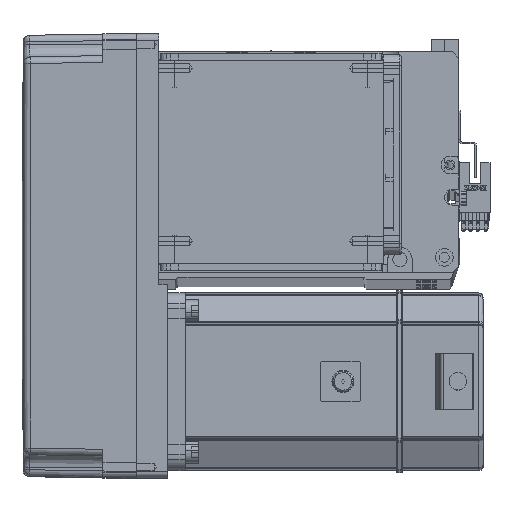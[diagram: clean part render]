
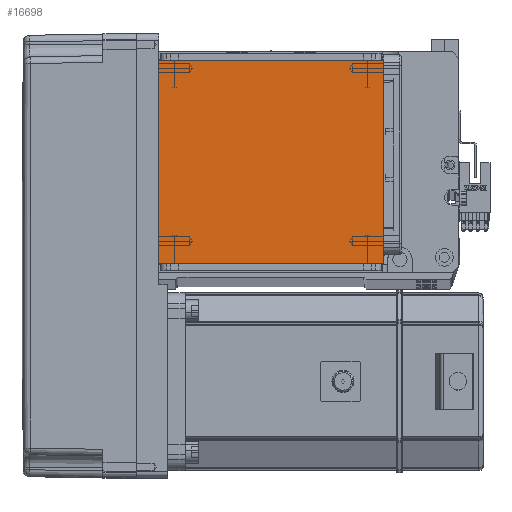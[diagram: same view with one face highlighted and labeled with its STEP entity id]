
A CAD part, top view. The second image highlights one B-rep face of the part: STEP entity #16698.
In plain terms, the highlighted planar face has unit normal (0, 0, 1).
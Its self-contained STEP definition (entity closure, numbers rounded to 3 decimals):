
#6112 = VERTEX_POINT ( 'NONE', #46129 ) ;
#7136 = FACE_OUTER_BOUND ( 'NONE', #11253, .T. ) ;
#11253 = EDGE_LOOP ( 'NONE', ( #39540, #14808, #51719, #14608 ) ) ;
#12309 = LINE ( 'NONE', #26963, #32172 ) ;
#14608 = ORIENTED_EDGE ( 'NONE', *, *, #22225, .T. ) ;
#14808 = ORIENTED_EDGE ( 'NONE', *, *, #17310, .T. ) ;
#16698 = ADVANCED_FACE ( 'NONE', ( #7136 ), #45753, .T. ) ;
#17310 = EDGE_CURVE ( 'NONE', #17650, #58301, #53050, .T. ) ;
#17650 = VERTEX_POINT ( 'NONE', #51116 ) ;
#17705 = CARTESIAN_POINT ( 'NONE',  ( -70.004, 111.5, 115. ) ) ;
#17846 = DIRECTION ( 'NONE',  ( 0., -1., 0. ) ) ;
#19130 = EDGE_CURVE ( 'NONE', #6112, #58301, #12309, .T. ) ;
#20636 = EDGE_CURVE ( 'NONE', #17650, #28809, #46532, .T. ) ;
#22225 = EDGE_CURVE ( 'NONE', #6112, #28809, #23989, .T. ) ;
#23989 = LINE ( 'NONE', #44876, #56309 ) ;
#26395 = CARTESIAN_POINT ( 'NONE',  ( 0., 0., 115. ) ) ;
#26754 = DIRECTION ( 'NONE',  ( -1., 0., 0. ) ) ;
#26863 = CARTESIAN_POINT ( 'NONE',  ( -50.5, 122., 115. ) ) ;
#26963 = CARTESIAN_POINT ( 'NONE',  ( -70.004, 20., 115. ) ) ;
#28809 = VERTEX_POINT ( 'NONE', #37950 ) ;
#29243 = AXIS2_PLACEMENT_3D ( 'NONE', #26395, #50870, #60329 ) ;
#29279 = VECTOR ( 'NONE', #17846, 1000. ) ;
#29807 = DIRECTION ( 'NONE',  ( 0., 1., 0. ) ) ;
#32172 = VECTOR ( 'NONE', #26754, 1000. ) ;
#37950 = CARTESIAN_POINT ( 'NONE',  ( 50.5, 111.5, 115. ) ) ;
#39269 = CARTESIAN_POINT ( 'NONE',  ( -50.5, 20., 115. ) ) ;
#39540 = ORIENTED_EDGE ( 'NONE', *, *, #20636, .F. ) ;
#44876 = CARTESIAN_POINT ( 'NONE',  ( 50.5, 122., 115. ) ) ;
#45753 = PLANE ( 'NONE',  #29243 ) ;
#46129 = CARTESIAN_POINT ( 'NONE',  ( 50.5, 20., 115. ) ) ;
#46532 = LINE ( 'NONE', #17705, #63347 ) ;
#50870 = DIRECTION ( 'NONE',  ( 0., 0., 1. ) ) ;
#51116 = CARTESIAN_POINT ( 'NONE',  ( -50.5, 111.5, 115. ) ) ;
#51719 = ORIENTED_EDGE ( 'NONE', *, *, #19130, .F. ) ;
#53050 = LINE ( 'NONE', #26863, #29279 ) ;
#56309 = VECTOR ( 'NONE', #29807, 1000. ) ;
#58301 = VERTEX_POINT ( 'NONE', #39269 ) ;
#60329 = DIRECTION ( 'NONE',  ( 1., 0., 0. ) ) ;
#62340 = DIRECTION ( 'NONE',  ( 1., 0., 0. ) ) ;
#63347 = VECTOR ( 'NONE', #62340, 1000. ) ;
